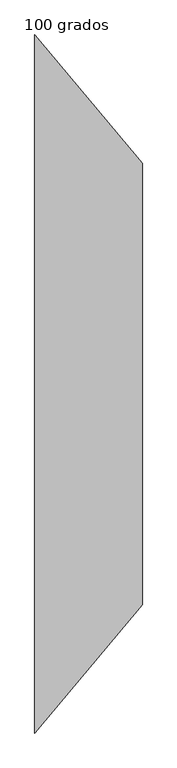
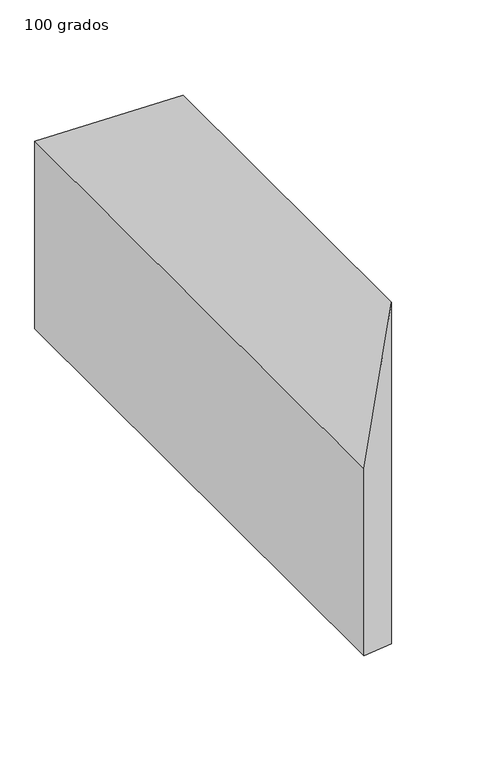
"""IFC4 building model written with IfcOpenShell, lengths in millimetres: duct fitting geometry, M_Transición rectangular - Ángulo : 100 grados."""

from ifc_helpers import new_model, si_unit, origin, place, context, project, spatial, faceted_brep, source, transform, mapped, element, save


def duct_fitting_100_grados_5d0939f3(model_context):
    return source(origin(), model_context, "Body", "Brep", [
        faceted_brep([(188.797417, -387.5, 387.5), (188.797417, -387.5, -387.5), (188.797417, 387.5, -387.5), (188.797417, 387.5, 387.5), (0.0, -612.5, 212.5), (0.0, 612.5, 212.5), (0.0, 612.5, -212.5), (0.0, -612.5, -212.5)], [[[0, 1, 2, 3]], [[4, 5, 6, 7]], [[4, 7, 1, 0]], [[7, 6, 2, 1]], [[6, 5, 3, 2]], [[5, 4, 0, 3]]]),
    ])


if __name__ == "__main__":
    model = new_model("IFC4")
    model_context = context("Model", 3, world=origin())
    ifc_project = project(units=[si_unit("LENGTHUNIT", "METRE", prefix="MILLI")], contexts=[model_context])
    site = spatial("IfcSite", under=ifc_project)
    building = spatial("IfcBuilding", under=site)
    placement = place(None, origin())
    duct_fitting_100_grados_shape = duct_fitting_100_grados_5d0939f3(model_context)
    element("IfcDuctFitting", 1, ObjectType="M_Transición rectangular - Ángulo : 100 grados", at=placement, inside=building, context=model_context, shape_type="MappedRepresentation", body=[
        mapped(duct_fitting_100_grados_shape, transform((0.0, 0.0, 0.0), x_axis=(1.0, 0.0, 0.0), y_axis=(0.0, 1.0, 0.0), z_axis=(0.0, 0.0, 1.0))),
    ])
    save(model, "model.ifc")
